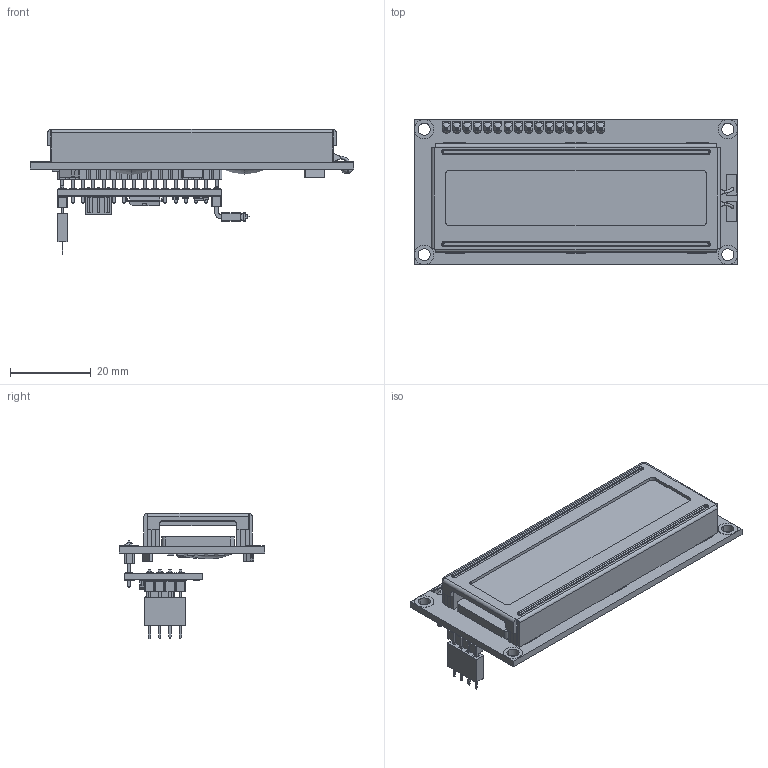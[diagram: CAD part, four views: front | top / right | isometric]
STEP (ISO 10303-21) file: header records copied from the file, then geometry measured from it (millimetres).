
FILE_DESCRIPTION(('FreeCAD Model'),'2;1');
FILE_NAME('Open CASCADE Shape Model','2024-06-11T18:14:33',(''),(''), 'Open CASCADE STEP processor 7.6','FreeCAD','Unknown');
FILE_SCHEMA(('AUTOMOTIVE_DESIGN { 1 0 10303 214 1 1 1 1 }'));
Length unit declared in the file: millimetre
Products named in the file (80): LCD_I2C_3D_v1; probe; LCD AP214; pcbboard; 16pin_header__; lcd window; backlight; conductor003; conductor; conductor001; conductor002; conductor007; conductor004; conductor005; conductor006; liquid crystal grabcad i2s003; liquid crystal grabcad i2s; liquid crystal grabcad i2s001; liquid crystal grabcad i2s002; smt_resistor222; smt_resistor223; smt_resistor224; smt_resistor225; smt_resistor226; smt_resistor227; smt_resistor101; smt_resistor228; i2c board; i2C board035; i2C board; i2C board001; i2C board002; i2C board003; i2C board004; i2C board005; i2C board006; i2C board007; i2C board008; i2C board009; i2C board010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
Assembly tree (79 placements, depth 6):
  LCD_I2C_3D_v1
    probe
      LCD AP214
        pcbboard
        16pin_header__
        lcd window
        backlight
        conductor003
          conductor
          conductor001
          conductor002
        conductor007
          conductor004
          conductor005
          conductor006
        liquid crystal grabcad i2s003
          liquid crystal grabcad i2s
          liquid crystal grabcad i2s001
          liquid crystal grabcad i2s002
        smt_resistor222
        smt_resistor223
        smt_resistor224
        smt_resistor225
        smt_resistor226
        smt_resistor227
        smt_resistor101
        smt_resistor228
        i2c board
          i2C board035
            i2C board
            i2C board001
            i2C board002
            i2C board003
            i2C board004
            i2C board005
            i2C board006
            i2C board007
            i2C board008
            i2C board009
            i2C board010
            i2C board011
            i2C board012
            i2C board013
            i2C board014
            i2C board015
            i2C board016
            i2C board017
            i2C board018
            i2C board019
            i2C board020
            i2C board021
            i2C board022
            i2C board023
            i2C board024
            i2C board025
            i2C board026
            i2C board027
            i2C board028
            i2C board029
            i2C board030
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Bounding box: 80 x 36 x 30.9 mm (x, y, z)
Volume: 17543.9 mm3; surface area: 33239.8 mm2
Topology: 71 solids, 71 shells, 6336 faces, 16411 edges, 10431 vertices
Faces by surface type: plane 4072, cylinder 1024, bspline 896, torus 209, sphere 131, revolution 4
Entity records: 249260 total; most frequent: CARTESIAN_POINT 74640, ORIENTED_EDGE 32576, DIRECTION 27702, EDGE_CURVE 16288, LINE 12162, VECTOR 12162, VERTEX_POINT 10431, AXIS2_PLACEMENT_3D 7768
